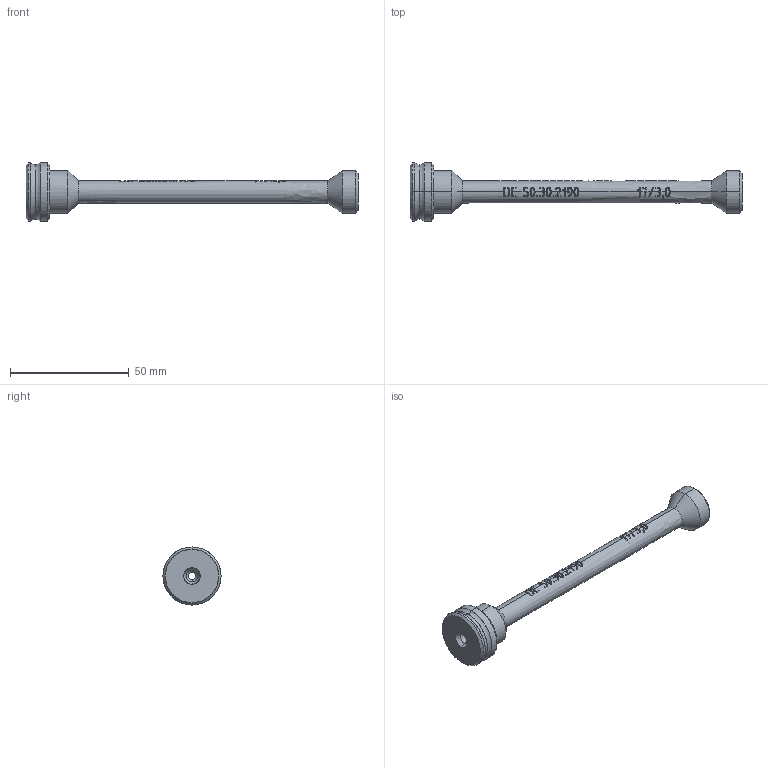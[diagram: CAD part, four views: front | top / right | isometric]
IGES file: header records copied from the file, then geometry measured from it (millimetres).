
Start section: SolidWorks IGES file using analytic representation for surfaces
Global section: file name: C:\Users\e.bondaruk\Desktop\縺 嚦闉鍙酀50.30.2190.IGS; native system: SolidWorks 2022; preprocessor: SolidWorks 2022; author: e.bondaruk; date: 230210.133558; units: millimetre
Bounding box: 140 x 24.5 x 24.5 mm (x, y, z)
Surface area: 7485 mm2 (no closed solid volume)
Topology: 0 solids, 0 shells, 321 faces, 5700 edges, 5700 vertices
Faces by surface type: bspline 267, revolution 54
